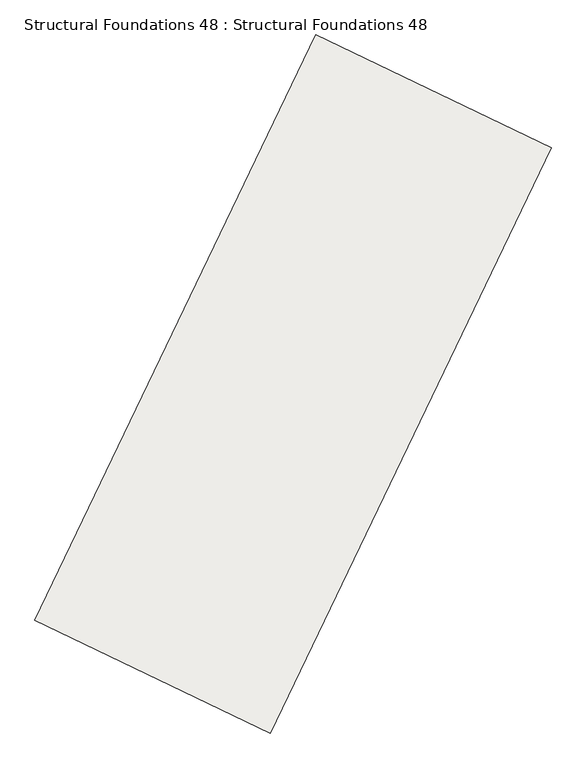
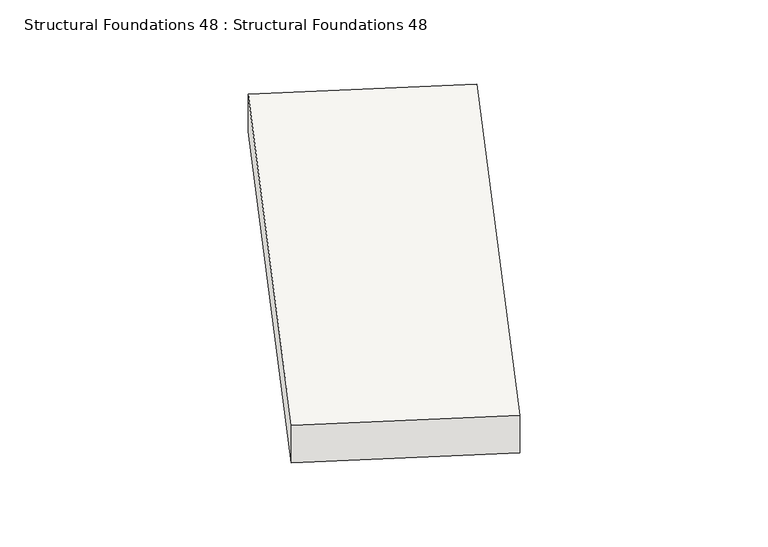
"""IFC4 building model written with IfcOpenShell, lengths in millimetres: slab geometry, Structural Foundations 48 : Structural Foundations 48."""

from ifc_helpers import new_model, si_unit, origin, place, context, project, spatial, faceted_brep, source, transform, mapped, element, save


def structural_foundations_48_structural_foundations_48_3e6eb5c2(model_context):
    return source(origin(), model_context, "Body", "Brep", [
        faceted_brep([(416398.0575124, 353695.8049134, 646680.0), (416398.0575124, 353695.8049134, 645980.0), (419552.9779389, 352180.4114309, 645980.0), (419552.9779389, 352180.4114309, 646680.0), (420162.1652092, 361539.3702476, 646790.0), (423317.0856357, 360023.9767651, 646790.0), (423317.0856357, 360023.9767651, 646090.0), (420162.1652092, 361539.3702476, 646090.0)], [[[0, 1, 2, 3]], [[4, 5, 6, 7]], [[4, 7, 1, 0]], [[7, 6, 2, 1]], [[6, 5, 3, 2]], [[5, 4, 0, 3]]]),
    ])


if __name__ == "__main__":
    model = new_model("IFC4")
    model_context = context("Model", 3, world=origin())
    ifc_project = project(units=[si_unit("LENGTHUNIT", "METRE", prefix="MILLI")], contexts=[model_context])
    site = spatial("IfcSite", under=ifc_project)
    building = spatial("IfcBuilding", under=site)
    placement = place(None, origin())
    structural_foundations_48_structural_foundations_48_shape = structural_foundations_48_structural_foundations_48_3e6eb5c2(model_context)
    element("IfcSlab", 1, ObjectType="Structural Foundations 48 : Structural Foundations 48", at=placement, inside=building, context=model_context, shape_type="MappedRepresentation", body=[
        mapped(structural_foundations_48_structural_foundations_48_shape, transform((0.0, 0.0, 0.0), x_axis=(1.0, 0.0, 0.0), y_axis=(0.0, 1.0, 0.0), z_axis=(0.0, 0.0, 1.0))),
    ])
    save(model, "model.ifc")
